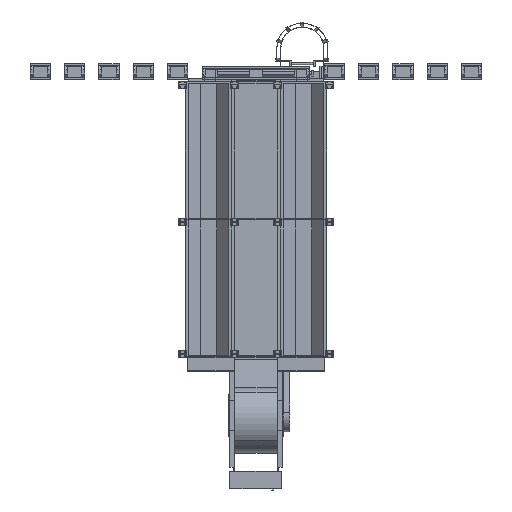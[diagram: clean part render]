
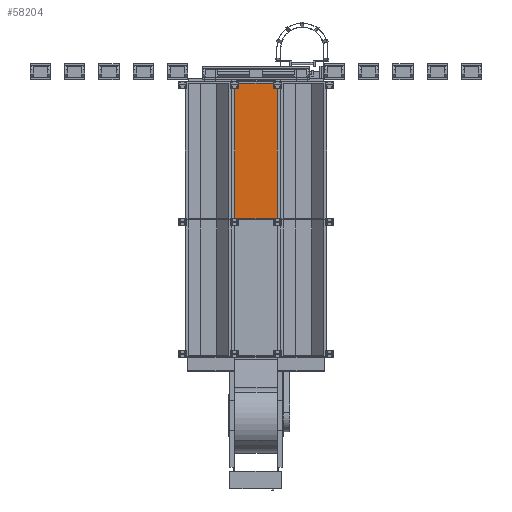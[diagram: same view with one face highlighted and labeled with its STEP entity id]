
A CAD part, front view. The second image highlights one B-rep face of the part: STEP entity #58204.
In plain terms, the highlighted planar face has unit normal (0, -1, 0) as drawn and (0, 0, -1) by its records, which use the part's own axes.
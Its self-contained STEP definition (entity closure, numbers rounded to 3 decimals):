
#3126=FACE_OUTER_BOUND('',#6115,.T.);
#6115=EDGE_LOOP('',(#38940,#38941,#38942,#38943));
#9810=LINE('',#82627,#17018);
#9813=LINE('',#82633,#17021);
#9879=LINE('',#82771,#17087);
#9880=LINE('',#82772,#17088);
#17018=VECTOR('',#66457,0.394);
#17021=VECTOR('',#66462,0.394);
#17087=VECTOR('',#66552,0.394);
#17088=VECTOR('',#66553,0.394);
#24139=VERTEX_POINT('',#82620);
#24142=VERTEX_POINT('',#82625);
#24143=VERTEX_POINT('',#82629);
#24204=VERTEX_POINT('',#82770);
#29919=EDGE_CURVE('',#24142,#24139,#9810,.T.);
#29922=EDGE_CURVE('',#24139,#24143,#9813,.T.);
#29988=EDGE_CURVE('',#24204,#24143,#9879,.T.);
#29989=EDGE_CURVE('',#24204,#24142,#9880,.T.);
#38940=ORIENTED_EDGE('',*,*,#29988,.T.);
#38941=ORIENTED_EDGE('',*,*,#29922,.F.);
#38942=ORIENTED_EDGE('',*,*,#29919,.F.);
#38943=ORIENTED_EDGE('',*,*,#29989,.F.);
#55850=PLANE('',#61660);
#58204=ADVANCED_FACE('',(#3126),#55850,.F.);
#61660=AXIS2_PLACEMENT_3D('',#82769,#66550,#66551);
#66457=DIRECTION('',(0.,-1.,0.));
#66462=DIRECTION('',(1.,0.,0.));
#66550=DIRECTION('center_axis',(0.,0.,1.));
#66551=DIRECTION('ref_axis',(1.,0.,0.));
#66552=DIRECTION('',(0.,-1.,0.));
#66553=DIRECTION('',(-1.,0.,0.));
#82620=CARTESIAN_POINT('',(-288.,-47.25,0.));
#82625=CARTESIAN_POINT('',(-288.,47.25,0.));
#82627=CARTESIAN_POINT('',(-288.,47.25,0.));
#82629=CARTESIAN_POINT('',(-192.004,-47.25,0.));
#82633=CARTESIAN_POINT('',(-288.,-47.25,0.));
#82769=CARTESIAN_POINT('Origin',(-144.,0.,0.));
#82770=CARTESIAN_POINT('',(-192.004,47.25,0.));
#82771=CARTESIAN_POINT('',(-192.004,2.638,0.));
#82772=CARTESIAN_POINT('',(0.,47.25,0.));
